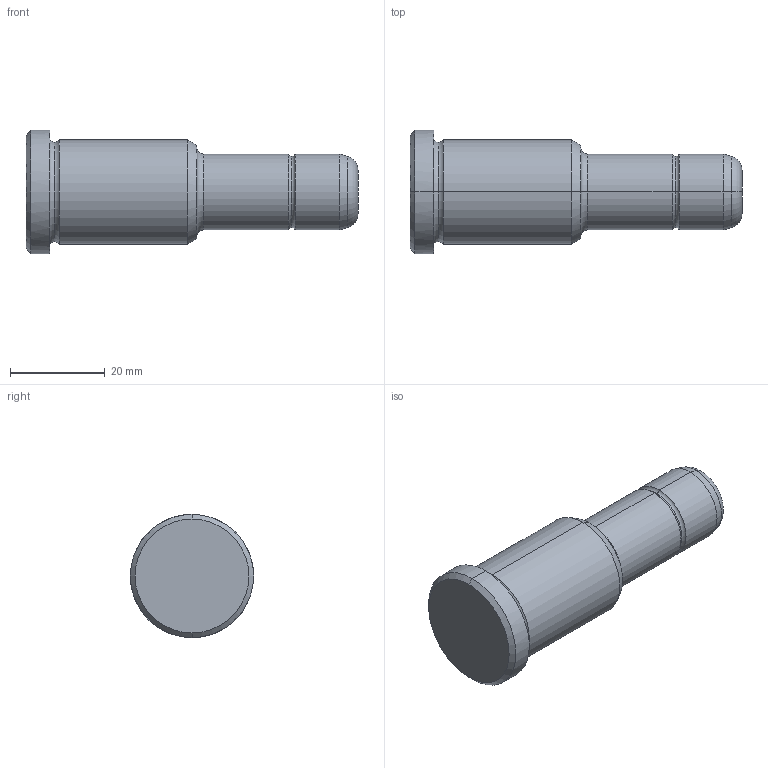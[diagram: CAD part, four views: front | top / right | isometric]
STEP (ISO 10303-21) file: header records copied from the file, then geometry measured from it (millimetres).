
FILE_DESCRIPTION(('CATIA V5 STEP Exchange'),'2;1');
FILE_NAME('C:\Users\Utente\Desktop\IO LAVORO\3D X SITO CF\X SITO\PLASTICA\351\351-16X36X70.stp','2021-08-18T11:39:22+00:00',('none'),('none'),'CATIA Version 5 Release 20 GA (IN-10)','CATIA V5 STEP AP203','none');
FILE_SCHEMA(('CONFIG_CONTROL_DESIGN'));
Length unit declared in the file: millimetre
Products named in the file (1): 351-16X36X70
Bounding box: 70 x 26 x 26 mm (x, y, z)
Volume: 20963.3 mm3; surface area: 5125 mm2
Topology: 1 solids, 1 shells, 30 faces, 86 edges, 60 vertices
Faces by surface type: torus 12, cylinder 8, cone 6, plane 4
Entity records: 1112 total; most frequent: CARTESIAN_POINT 289, ORIENTED_EDGE 172, DIRECTION 138, AXIS2_PLACEMENT_3D 95, EDGE_CURVE 86, CIRCLE 64, VERTEX_POINT 60, EDGE_LOOP 32
